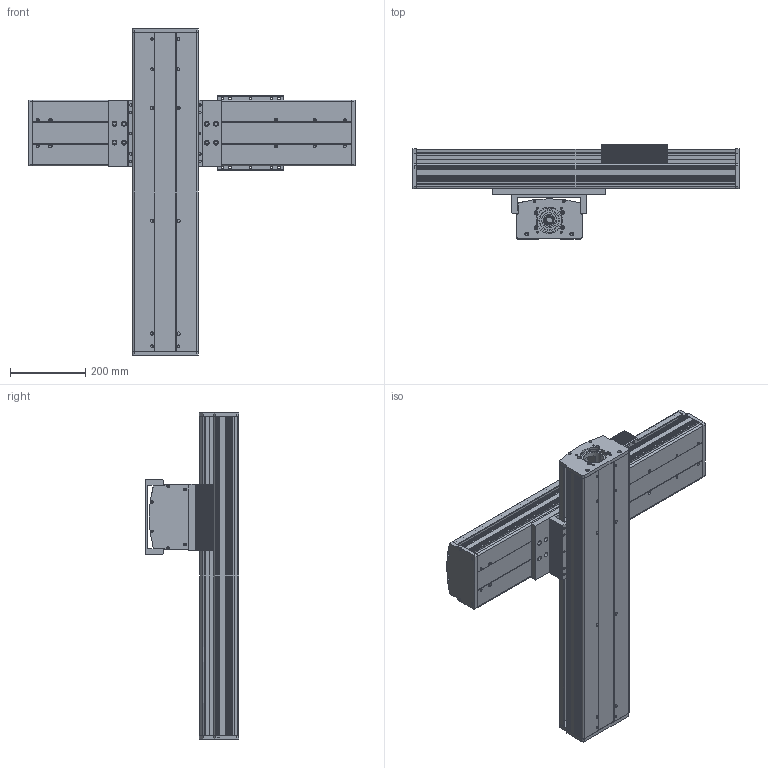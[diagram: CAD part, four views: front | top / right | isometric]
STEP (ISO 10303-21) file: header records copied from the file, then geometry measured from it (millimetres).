
FILE_DESCRIPTION (( 'STEP AP203' ), '1' );
FILE_NAME ('謗粣阨す溫离1.STEP', '2016-02-29T01:57:25', ( 'Sky123.Org' ), ( 'Sky123.Org' ), 'SwSTEP 2.0', 'SolidWorks 2015', '' );
FILE_SCHEMA (( 'CONFIG_CONTROL_DESIGN' ));
Length unit declared in the file: millimetre
Products named in the file (15): Y1-CF175-2-25-C-200-FW; 175-2盓傅釱; 175-75旳諉啣; CF175-2蹟譫釱; 謗粣阨す溫离1; Y1-CF175-2-P1200-1547裔啣; Y1-CF175-2-P1200-1547臏倰第; Y1-HGR20-1500絳寢; CF-HGH20CA賑輸; CF175-2賑雄啣; SFU2505-4; 175-2梓袧嘐隅釱; X1-SFS2525-1185; 175-2侜督80萇儂釱; 175-2耜啣
Assembly tree (19 placements, depth 3):
  謗粣阨す溫离1
    Y1-CF175-2-25-C-200-FW  x2
      CF-HGH20CA賑輸
      SFU2505-4
      X1-SFS2525-1185
      175-2耜啣
      175-2盓傅釱
      CF175-2蹟譫釱
      Y1-CF175-2-P1200-1547裔啣
      Y1-CF175-2-P1200-1547臏倰第
      Y1-HGR20-1500絳寢
      CF175-2賑雄啣
      175-2梓袧嘐隅釱
      175-2侜督80萇儂釱
    175-75旳諉啣
Bounding box: 867 x 249.6 x 867 mm (x, y, z)
Volume: 15115813.5 mm3; surface area: 4006224.9 mm2
Topology: 45 solids, 45 shells, 2850 faces, 7512 edges, 4976 vertices
Faces by surface type: cylinder 1482, plane 1320, cone 40, bspline 8
Entity records: 44264 total; most frequent: CARTESIAN_POINT 11526, DIRECTION 6760, ORIENTED_EDGE 6258, EDGE_CURVE 3129, AXIS2_PLACEMENT_3D 2547, VERTEX_POINT 2072, LINE 1666, VECTOR 1666
